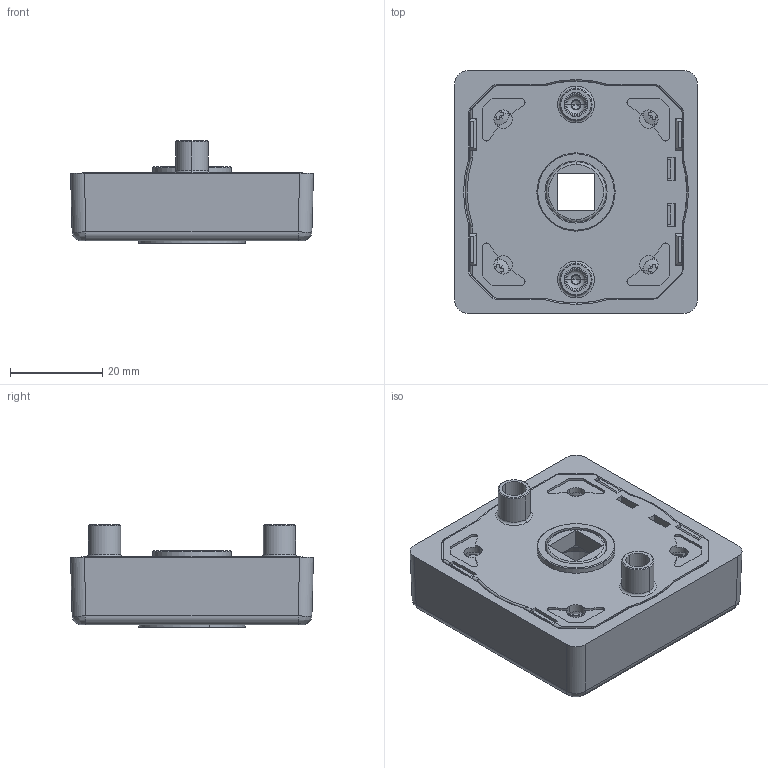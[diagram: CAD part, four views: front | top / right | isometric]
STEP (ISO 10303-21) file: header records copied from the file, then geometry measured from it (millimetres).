
FILE_DESCRIPTION((''),'2;1');
FILE_NAME('PRT0011','2025-05-06T11:43:13',('carlone'),(''),'CREO PARAMETRIC BY PTC INC, 2020454','CREO PARAMETRIC BY PTC INC, 2020454','');
FILE_SCHEMA(('CONFIG_CONTROL_DESIGN','SHAPE_APPEARANCE_LAYERS_GROUPS'));
Products named in the file (1): PRT0011
Bounding box: 52.77 x 52.77 x 22.35 mm (x, y, z)
Volume: 28466.7 mm3; surface area: 28473.8 mm2
Topology: 2 solids, 19 shells, 1517 faces, 4276 edges, 2724 vertices
Faces by surface type: plane 626, cylinder 477, cone 160, bspline 126, torus 102, sphere 26
Entity records: 62307 total; most frequent: CARTESIAN_POINT 23392, ORIENTED_EDGE 8484, DIRECTION 7957, EDGE_CURVE 4260, AXIS2_PLACEMENT_3D 2926, VERTEX_POINT 2724, VECTOR 2105, LINE 2105
